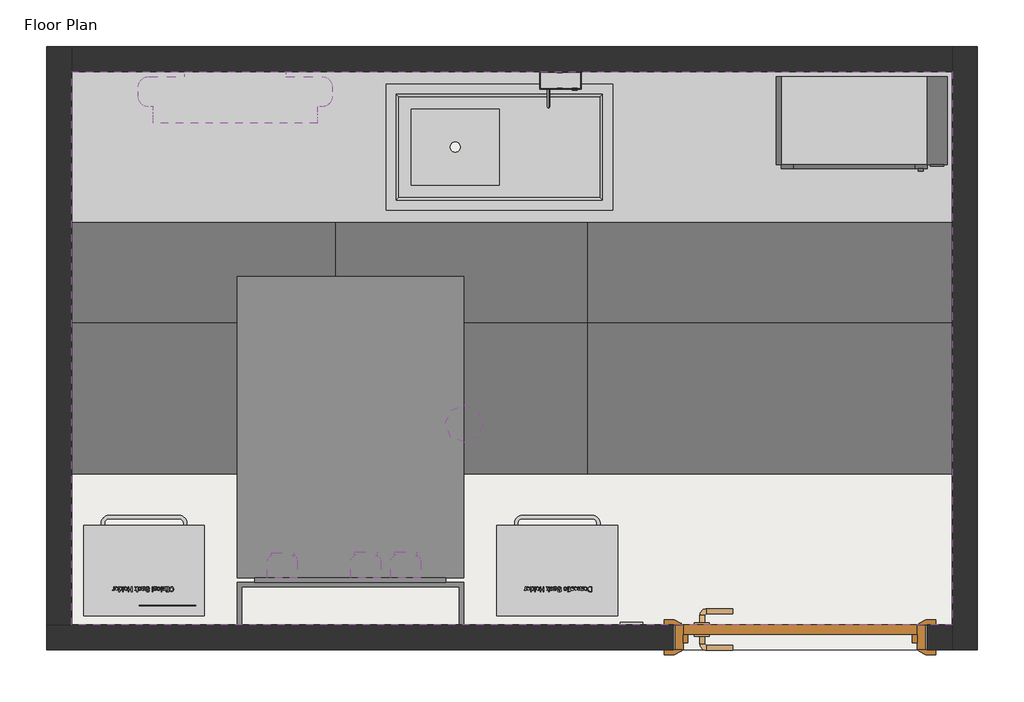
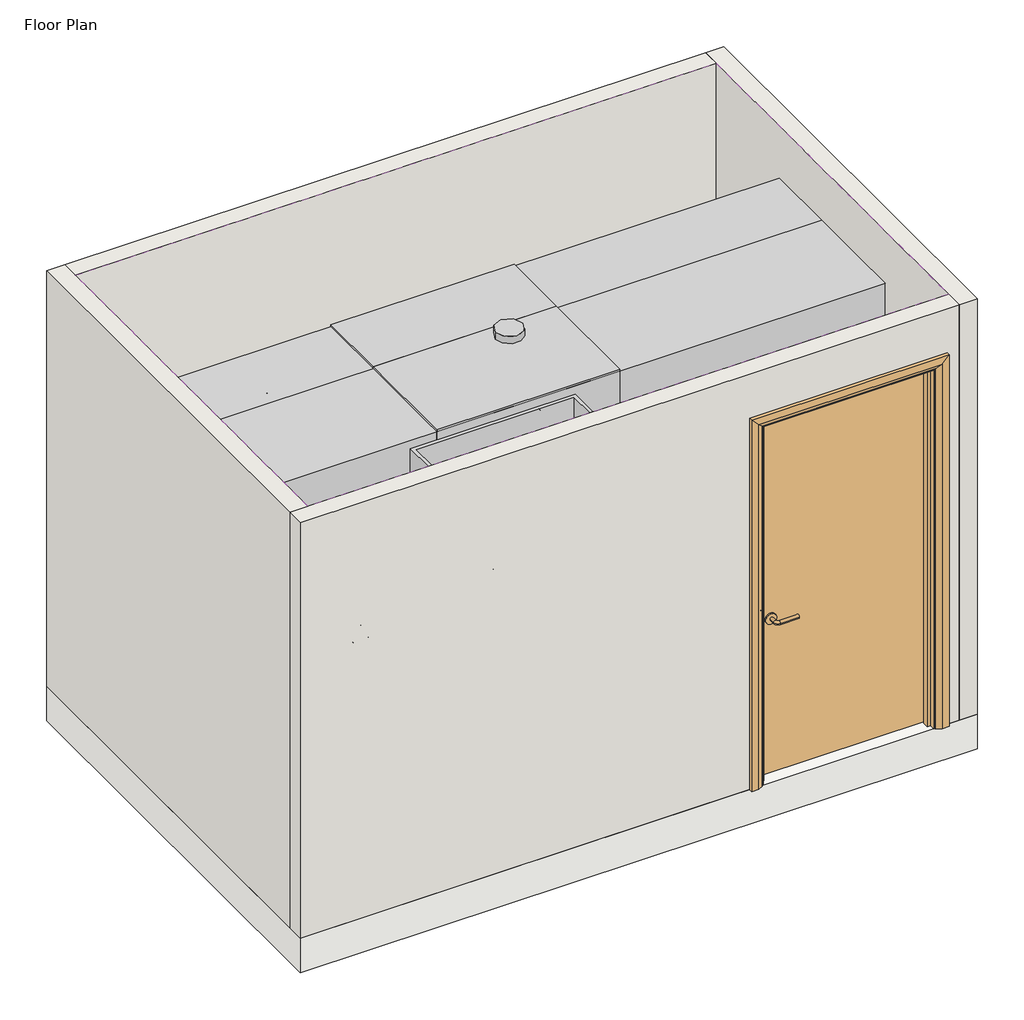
# One storey, incomplete: 9 proxies, 6 furniture elements, 4 walls, 3 flow terminals, 1 covering, 1 door, 1 slab.
"""IFC4 building model written with IfcOpenShell, lengths in millimetres."""

from ifc_helpers import new_model, si_unit, frame, origin, origin_with_axes, place, context, project, spatial, polyline, outline, extrude, faceted_brep, transform, mapped, element, save
from components import generic_models_abbf64a3, generic_models_a45729b0, generic_models_63e8a5fc, generic_models_43ed5143, generic_models_e545678d, generic_models_0cca4b6f, generic_models_3f6ca24f, bimhealth_electrical_light_switch_v1_type_1_b5e59f8a, bimhealth_electrical_smoke_detector_v1_bimhealth_electrical_fe9fcb6c, door_1010x2110mm_f9eb5fde, flow_terminal_004a381b, flow_terminal_30861e1c, flow_terminal_1070fcb0, furniture_3d3374f5, furniture_385ba860, furniture_166ce8d1, furniture_26d36cfe, furniture_197fe330, furniture_610823a6

model = new_model("IFC4")

# Units and contexts
model_context = context("Model", 3, world=origin())
ifc_project = project(units=[si_unit("LENGTHUNIT", "METRE", prefix="MILLI")], contexts=[model_context])

# Site, building, storey
site = spatial("IfcSite", under=ifc_project)
building = spatial("IfcBuilding", under=site)
storey = spatial("IfcBuildingStorey", under=building, Name="Floor Plan", Elevation=0.0)

# Proxies
placement = place(None, origin())
generic_models_shape = generic_models_abbf64a3(model_context)
element("IfcBuildingElementProxy", 1, Name="BIMHealth-Hand_Cream_Dispenser-LOD2A-v1 : BIMHealth-Hand_Cream_Dispenser-LOD2A-v1", ObjectType="BIMHealth-Hand_Cream_Dispenser-LOD2A-v1 : BIMHealth-Hand_Cream_Dispenser-LOD2A-v1", at=placement, inside=storey, context=model_context, shape_type="MappedRepresentation", body=[
    mapped(generic_models_shape, transform((1133.924853, 1281.0, 150.0), x_axis=(-1.0000000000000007, 0.0, 0.0), y_axis=(0.0, -1.0000000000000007, 0.0), z_axis=(0.0, 0.0, 1.0))),
])
generic_models_2_shape = generic_models_a45729b0(model_context)
element("IfcBuildingElementProxy", 2, Name="BIMHealth-Dishwasher-LOD2A-v1 : BIMHealth-Dishwasher-LOD2A-v1", ObjectType="BIMHealth-Dishwasher-LOD2A-v1 : BIMHealth-Dishwasher-LOD2A-v1", at=placement, inside=storey, context=model_context, shape_type="MappedRepresentation", body=[
    mapped(generic_models_2_shape, transform((-95.0, 3295.0, 0.0), x_axis=(1.0, 0.0, 0.0), y_axis=(0.0, 1.0, 0.0), z_axis=(0.0, 0.0, 1.0))),
])
generic_models_3_shape = generic_models_63e8a5fc(model_context)
element("IfcBuildingElementProxy", 3, Name="BIMHealth-Kitchen_worktop-LOD2A-v1 : BIMHealth-Kitchen_worktop-LOD2A-v1", ObjectType="BIMHealth-Kitchen_worktop-LOD2A-v1 : BIMHealth-Kitchen_worktop-LOD2A-v1", at=placement, inside=storey, context=model_context, shape_type="MappedRepresentation", body=[
    mapped(generic_models_3_shape, transform((-95.0, 3295.0, 0.0), x_axis=(1.0, 0.0, 0.0), y_axis=(0.0, 1.0, 0.0), z_axis=(0.0, 0.0, 1.0))),
])
generic_models_4_shape = generic_models_43ed5143(model_context)
element("IfcBuildingElementProxy", 4, Name="BIMHealth-Fridge-LOD2A-v1 : BIMHealth-Fridge-LOD2A-v1", ObjectType="BIMHealth-Fridge-LOD2A-v1 : BIMHealth-Fridge-LOD2A-v1", at=placement, inside=storey, context=model_context, shape_type="MappedRepresentation", body=[
    mapped(generic_models_4_shape, transform((2755.0, 3295.0, 0.0), x_axis=(1.0, 0.0, 0.0), y_axis=(0.0, 1.0, 0.0), z_axis=(0.0, 0.0, 1.0))),
])
generic_models_5_shape = generic_models_e545678d(model_context)
element("IfcBuildingElementProxy", 5, Name="BIMHealth-Microwave-LOD2A-v1 : BIMHealth-Microwave-LOD2A-v1", ObjectType="BIMHealth-Microwave-LOD2A-v1 : BIMHealth-Microwave-LOD2A-v1", at=placement, inside=storey, context=model_context, shape_type="MappedRepresentation", body=[
    mapped(generic_models_5_shape, transform((2705.0, 3275.0, 900.0), x_axis=(1.0, 0.0, 0.0), y_axis=(0.0, 1.0, 0.0), z_axis=(0.0, 0.0, 1.0))),
])
generic_models_6_shape = generic_models_0cca4b6f(model_context)
element("IfcBuildingElementProxy", 6, Name="BIMHealth-Water_Boiler-LOD2A-v1 : BIMHealth-Water_Boiler-LOD2A-v1", ObjectType="BIMHealth-Water_Boiler-LOD2A-v1 : BIMHealth-Water_Boiler-LOD2A-v1", at=placement, inside=storey, context=model_context, shape_type="MappedRepresentation", body=[
    mapped(generic_models_6_shape, transform((1845.0, 3295.0, 0.0), x_axis=(1.0, 0.0, 0.0), y_axis=(0.0, 1.0, 0.0), z_axis=(0.0, 0.0, 1.0))),
])
generic_models_7_shape = generic_models_3f6ca24f(model_context)
element("IfcBuildingElementProxy", 7, Name="BIMHealth-Paper_Towel_Roll-LOD2A-v1 : BIMHealth-Paper_Towel_Roll-LOD2A-v1", ObjectType="BIMHealth-Paper_Towel_Roll-LOD2A-v1 : BIMHealth-Paper_Towel_Roll-LOD2A-v1", at=placement, inside=storey, context=model_context, shape_type="MappedRepresentation", body=[
    mapped(generic_models_7_shape, transform((555.0, 3265.0, 200.0), x_axis=(1.0000000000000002, 0.0, 0.0), y_axis=(0.0, 1.0000000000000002, 0.0), z_axis=(0.0, 0.0, 1.0))),
])
bimhealth_electrical_light_switch_v1_type_1_shape = bimhealth_electrical_light_switch_v1_type_1_b5e59f8a(model_context)
element("IfcBuildingElementProxy", 8, Name="BIMHealth-Electrical-Light_Switch-v1 : Type 1", ObjectType="BIMHealth-Electrical-Light_Switch-v1 : Type 1", at=placement, inside=storey, context=model_context, shape_type="MappedRepresentation", body=[
    mapped(bimhealth_electrical_light_switch_v1_type_1_shape, transform((1960.0, 1045.0, -60.0), x_axis=(1.0, 0.0, 0.0), y_axis=(0.0, 1.0, 0.0), z_axis=(0.0, 0.0, 1.0))),
])
bimhealth_electrical_smoke_detector_v1_bimhealth_electrical_shape = bimhealth_electrical_smoke_detector_v1_bimhealth_electrical_fe9fcb6c(model_context)
element("IfcBuildingElementProxy", 9, Name="BIMHealth-Electrical-Smoke_Detector-v1 : BIMHealth-Electrical-Smoke_Detector-v1", ObjectType="BIMHealth-Electrical-Smoke_Detector-v1 : BIMHealth-Electrical-Smoke_Detector-v1", at=placement, inside=storey, context=model_context, shape_type="MappedRepresentation", body=[
    mapped(bimhealth_electrical_smoke_detector_v1_bimhealth_electrical_shape, transform((1465.0, 1895.0, -38.4), x_axis=(1.0, 0.0, 0.0), y_axis=(0.0, 1.0, 0.0), z_axis=(0.0, 0.0, 1.0))),
])

# Covering
element("IfcCovering", 10, ObjectType="BIMHealth - Generic Ceiling", at=placement, inside=storey, context=model_context, shape_type="SweptSolid", body=[
    extrude(outline(polyline([(3405.0, 3295.0), (3405.0, 1095.0), (-95.0, 1095.0), (-95.0, 3295.0), (3405.0, 3295.0)])), frame((0.0, 0.0, 2400.0), z_axis=(0.0, 0.0, 1.0), x_axis=(1.0, 0.0, 0.0)), (0.0, 0.0, 1.0), 52.0),
])

# Door
door_1010x2110mm_shape = door_1010x2110mm_f9eb5fde(model_context)
element("IfcDoor", 11, ObjectType="BIMHealth-Single_Door-LOD2A-v1 : 1010x2110mm", at=placement, inside=storey, context=model_context, shape_type="MappedRepresentation", body=[
    mapped(door_1010x2110mm_shape, transform((2800.0, 1045.0, 0.0), x_axis=(1.0, 0.0, 0.0), y_axis=(0.0, 1.0, 0.0), z_axis=(0.0, 0.0, 1.0))),
])

# Flow terminals
flow_terminal_shape = flow_terminal_004a381b(model_context)
element("IfcFlowTerminal", 12, ObjectType="BIMHealth-Taps_IPS-LOD2A-v1 : BIMHealth-Taps_IPS-LOD2A-v1", at=placement, inside=storey, context=model_context, shape_type="MappedRepresentation", body=[
    mapped(flow_terminal_shape, transform((1120.0, 1339.1543621, 1022.0), x_axis=(-1.0000000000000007, 0.0, 0.0), y_axis=(0.0, -1.0000000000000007, 0.0), z_axis=(0.0, 0.0, 1.0))),
])
flow_terminal_2_shape = flow_terminal_30861e1c(model_context)
element("IfcFlowTerminal", 13, ObjectType="BIMHealth-Wash_basin-LOD2A-v1 : BIMHealth-Wash_basin-LOD2A-v1", at=placement, inside=storey, context=model_context, shape_type="MappedRepresentation", body=[
    mapped(flow_terminal_2_shape, transform((1270.5316286, 1281.0, 500.0), x_axis=(-1.0000000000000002, 0.0, 0.0), y_axis=(0.0, -1.0000000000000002, 0.0), z_axis=(0.0, 0.0, 1.0))),
])
flow_terminal_3_shape = flow_terminal_1070fcb0(model_context)
element("IfcFlowTerminal", 14, ObjectType="BIMHealth-Stainless_Steel_Sink_500x900mm-LOD2A-v1 : BIMHealth-Stainless_Steel_Sink_500x900mm-LOD2A-v1", at=placement, inside=storey, context=model_context, shape_type="MappedRepresentation", body=[
    mapped(flow_terminal_3_shape, transform((1154.6744807, 3245.0, 10.0), x_axis=(1.0, 0.0, 0.0), y_axis=(0.0, 1.0, 0.0), z_axis=(0.0, 0.0, 1.0))),
])

# Furniture
furniture_shape = furniture_3d3374f5(model_context)
element("IfcFurniture", 15, ObjectType="BIMHealth-Washstation-LOD2A-v1 : BIMHealth-Washstation-LOD2A-v1", at=placement, inside=storey, context=model_context, shape_type="MappedRepresentation", body=[
    mapped(furniture_shape, transform((562.3865519, 1095.0, 0.0), x_axis=(-1.0000000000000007, 0.0, 0.0), y_axis=(0.0, -1.0000000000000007, 0.0), z_axis=(0.0, 0.0, 1.0))),
])
furniture_2_shape = furniture_385ba860(model_context)
element("IfcFurniture", 16, ObjectType="BIMHealth-Alcohol_gel_dispenser-LOD2A-v1 : BIMHealth-Alcohol_gel_dispenser-LOD2A-v1", at=placement, inside=storey, context=model_context, shape_type="MappedRepresentation", body=[
    mapped(furniture_2_shape, transform((802.3865519, 1281.0, 150.0), x_axis=(-1.0000000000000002, 0.0, 0.0), y_axis=(0.0, -1.0000000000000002, 0.0), z_axis=(0.0, 0.0, 1.0))),
])
furniture_3_shape = furniture_166ce8d1(model_context)
element("IfcFurniture", 17, ObjectType="BIMHealth-Paper_Towel_Dispenser-LOD2A-v1 : BIMHealth-Paper_Towel_Dispenser-LOD2A-v1", at=placement, inside=storey, context=model_context, shape_type="MappedRepresentation", body=[
    mapped(furniture_3_shape, transform((425.0, 1095.0, 20.0), x_axis=(-1.0000000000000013, 0.0, 0.0), y_axis=(0.0, -1.0000000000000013, 0.0), z_axis=(0.0, 0.0, 1.0))),
])
furniture_4_shape = furniture_26d36cfe(model_context)
element("IfcFurniture", 18, ObjectType="BIMHealth-Soap_Dispenser-LOD2A-v1 : BIMHealth-Soap_Dispenser-LOD2A-v1", at=placement, inside=storey, context=model_context, shape_type="MappedRepresentation", body=[
    mapped(furniture_4_shape, transform((1292.3865519, 1281.0, 150.0), x_axis=(-1.0000000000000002, 0.0, 0.0), y_axis=(0.0, -1.0000000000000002, 0.0), z_axis=(0.0, 0.0, 1.0))),
])
furniture_5_shape = furniture_197fe330(model_context)
element("IfcFurniture", 19, ObjectType="BIMHealth-Sack_Holder_Domestic-LOD2A-v1 : BIMHealth-Sack_Holder_Domestic-LOD2A-v1", at=placement, inside=storey, context=model_context, shape_type="MappedRepresentation", body=[
    mapped(furniture_5_shape, transform((2055.0, 1150.0, 0.0), x_axis=(-1.0000000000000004, 0.0, 0.0), y_axis=(0.0, -1.0000000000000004, 0.0), z_axis=(0.0, 0.0, 1.0))),
])
furniture_6_shape = furniture_610823a6(model_context)
element("IfcFurniture", 20, ObjectType="BIMHealth-Sack_Holder_Clinical-LOD2A-v1 : BIMHealth-Sack_Holder_Clinical-LOD2A-v1", at=placement, inside=storey, context=model_context, shape_type="MappedRepresentation", body=[
    mapped(furniture_6_shape, transform((412.3865519, 1150.0, 0.0), x_axis=(-1.0000000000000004, 0.0, 0.0), y_axis=(0.0, -1.0000000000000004, 0.0), z_axis=(0.0, 0.0, 1.0))),
])

# Slab
element("IfcSlab", 21, ObjectType="BIMHealth - Generic Floor", at=placement, inside=storey, context=model_context, shape_type="SweptSolid", body=[
    extrude(outline(polyline([(3505.0, 3395.0), (3505.0, 995.0), (-195.0, 995.0), (-195.0, 3395.0), (3505.0, 3395.0)])), frame((0.0, 0.0, -200.0), z_axis=(0.0, 0.0, 1.0), x_axis=(1.0, 0.0, 0.0)), (0.0, 0.0, 1.0), 200.0),
])

# Walls
element("IfcWall", 22, ObjectType="BIMHealth - Generic Wall", at=placement, inside=storey, context=model_context, shape_type="Brep", body=[
    faceted_brep([(3405.0, 3395.0, 0.0), (3405.0, 3295.0, 0.0), (3405.0, 1095.0, 0.0), (3405.0, 995.0, 0.0), (3405.0, 995.0, 2400.0), (3405.0, 1095.0, 2400.0), (3405.0, 3295.0, 2400.0), (3405.0, 3395.0, 2400.0), (3505.0, 3395.0, 0.0), (3505.0, 3395.0, 2400.0), (3505.0, 995.0, 2400.0), (3505.0, 995.0, 0.0)], [[[0, 1, 2, 3, 4, 5, 6, 7]], [[8, 9, 10, 11]], [[3, 2, 1, 0, 8, 11]], [[7, 6, 5, 4, 10, 9]], [[4, 3, 11, 10]], [[0, 7, 9, 8]]]),
])
element("IfcWall", 23, ObjectType="BIMHealth - Generic Wall", at=placement, inside=storey, context=model_context, shape_type="Brep", body=[
    faceted_brep([(-195.0, 1095.0, 2400.0), (-95.0, 1095.0, 2400.0), (3405.0, 1095.0, 2400.0), (3405.0, 1095.0, 0.0), (3305.0, 1095.0, 0.0), (3305.0, 1095.0, 2110.0), (2295.0, 1095.0, 2110.0), (2295.0, 1095.0, 0.0), (-95.0, 1095.0, 0.0), (-195.0, 1095.0, 0.0), (3405.0, 995.0, 2400.0), (-195.0, 995.0, 2400.0), (-195.0, 995.0, 0.0), (2295.0, 995.0, 0.0), (2295.0, 995.0, 2110.0), (3305.0, 995.0, 2110.0), (3305.0, 995.0, 0.0), (3405.0, 995.0, 0.0)], [[[0, 1, 2, 3, 4, 5, 6, 7, 8, 9]], [[10, 11, 12, 13, 14, 15, 16, 17]], [[3, 17, 16, 4]], [[12, 9, 8, 7, 13]], [[2, 1, 0, 11, 10]], [[3, 2, 10, 17]], [[0, 9, 12, 11]], [[15, 5, 4, 16]], [[5, 15, 14, 6]], [[6, 14, 13, 7]]]),
])
element("IfcWall", 24, ObjectType="BIMHealth - Generic Wall", at=placement, inside=storey, context=model_context, shape_type="Brep", body=[
    faceted_brep([(-95.0, 1095.0, 0.0), (-95.0, 3295.0, 0.0), (-95.0, 3395.0, 0.0), (-95.0, 3395.0, 2400.0), (-95.0, 3295.0, 2400.0), (-95.0, 1095.0, 2400.0), (-195.0, 1095.0, 0.0), (-195.0, 1095.0, 2400.0), (-195.0, 3395.0, 2400.0), (-195.0, 3395.0, 0.0)], [[[0, 1, 2, 3, 4, 5]], [[6, 7, 8, 9]], [[2, 1, 0, 6, 9]], [[5, 4, 3, 8, 7]], [[0, 5, 7, 6]], [[3, 2, 9, 8]]]),
])
element("IfcWall", 25, ObjectType="BIMHealth - Generic Wall", at=placement, inside=storey, context=model_context, shape_type="SweptSolid", body=[
    extrude(outline(polyline([(3405.0, 3295.0), (-95.0, 3295.0), (-95.0, 3395.0), (3405.0, 3395.0), (3405.0, 3295.0)])), origin_with_axes(), (0.0, 0.0, 1.0), 2400.0),
])

save(model, "model.ifc")
